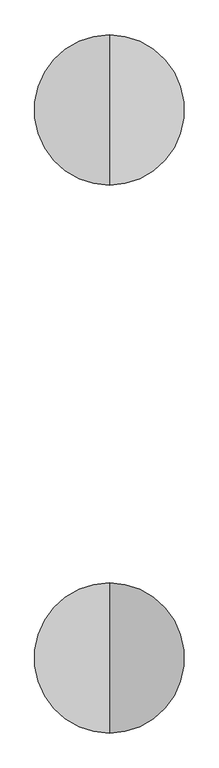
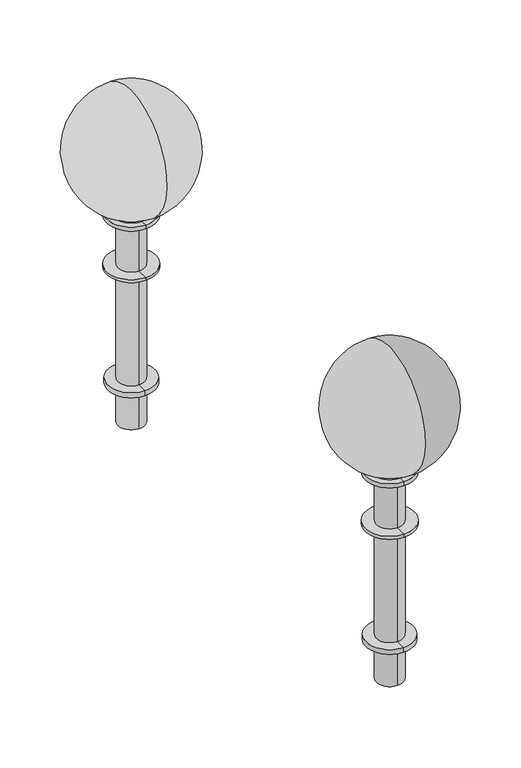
"""IFC4 building model written with IfcOpenShell, lengths in millimetres: column geometry, 招牌柱 : 招牌柱."""

from ifc_helpers import new_model, si_unit, point, frame, origin, place, context, project, spatial, circle_curve, ellipse_curve, trimmed, source, transform, mapped, element, save
from ifc_brep_helpers import plane_surface, cylinder_surface, revolved_surface, advanced_brep


def column_72347231(model_context):
    return source(origin(), model_context, "Body", "AdvancedBrep", [
        advanced_brep(
        [(5029.1580578, 2762.016625, 2700.0), (5029.1580578, 2697.016625, 2700.0), (5029.1580578, 2827.016625, 2700.0), (5029.1580578, 2697.016625, 2900.0), (5029.1580578, 2827.016625, 2900.0), (5029.1580578, 2647.016625, 2900.0), (5029.1580578, 2877.016625, 2900.0), (5029.1580578, 2647.016625, 2925.0), (5029.1580578, 2877.016625, 2925.0), (5029.1580578, 2697.016625, 2925.0), (5029.1580578, 2827.016625, 2925.0), (5029.1580578, 2697.016625, 3475.0), (5029.1580578, 2827.016625, 3475.0), (5029.1580578, 2672.016625, 3475.0), (5029.1580578, 2852.016625, 3475.0), (5029.1580578, 2672.016625, 3495.0), (5029.1580578, 2852.016625, 3495.0), (5029.1580578, 2642.016625, 3495.0), (5029.1580578, 2882.016625, 3495.0), (5029.1580578, 2642.016625, 3510.0), (5029.1580578, 2882.016625, 3510.0), (5029.1580578, 2697.016625, 3510.0), (5029.1580578, 2827.016625, 3510.0), (5029.1580578, 2697.016625, 3760.0), (5029.1580578, 2827.016625, 3760.0), (5029.1580578, 2642.016625, 3760.0), (5029.1580578, 2882.016625, 3760.0), (5029.1580578, 2642.016625, 3780.0), (5029.1580578, 2882.016625, 3780.0), (5029.1580578, 2672.016625, 3780.0), (5029.1580578, 2852.016625, 3780.0), (5029.1580578, 2672.016625, 3800.0), (5029.1580578, 2852.016625, 3800.0), (5029.1580578, 2762.016625, 4400.0)],
        [
            (0, 1),
            (1, 2, circle_curve(frame((5029.1580578, 2762.016625, 2700.0), z_axis=(0.0, 0.0, -1.0), x_axis=(0.0, -1.0, 0.0)), 65.0)),
            (2, 0),
            (2, 1, circle_curve(frame((5029.1580578, 2762.016625, 2700.0), z_axis=(0.0, 0.0, -1.0), x_axis=(0.0, -1.0, 0.0)), 65.0)),
            (1, 3),
            (3, 4, circle_curve(frame((5029.1580578, 2762.016625, 2900.0), z_axis=(0.0, 0.0, -1.0), x_axis=(0.0, -1.0, 0.0)), 65.0)),
            (4, 2),
            (4, 3, circle_curve(frame((5029.1580578, 2762.016625, 2900.0), z_axis=(0.0, 0.0, -1.0), x_axis=(0.0, -1.0, 0.0)), 65.0)),
            (3, 5),
            (5, 6, circle_curve(frame((5029.1580578, 2762.016625, 2900.0), z_axis=(0.0, 0.0, -1.0), x_axis=(0.0, -1.0, 0.0)), 115.0)),
            (6, 4),
            (6, 5, circle_curve(frame((5029.1580578, 2762.016625, 2900.0), z_axis=(0.0, 0.0, -1.0), x_axis=(0.0, -1.0, 0.0)), 115.0)),
            (5, 7),
            (7, 8, circle_curve(frame((5029.1580578, 2762.016625, 2925.0), z_axis=(0.0, 0.0, -1.0), x_axis=(0.0, -1.0, 0.0)), 115.0)),
            (8, 6),
            (8, 7, circle_curve(frame((5029.1580578, 2762.016625, 2925.0), z_axis=(0.0, 0.0, -1.0), x_axis=(0.0, -1.0, 0.0)), 115.0)),
            (7, 9),
            (9, 10, circle_curve(frame((5029.1580578, 2762.016625, 2925.0), z_axis=(0.0, 0.0, -1.0), x_axis=(0.0, -1.0, 0.0)), 65.0)),
            (10, 8),
            (10, 9, circle_curve(frame((5029.1580578, 2762.016625, 2925.0), z_axis=(0.0, 0.0, -1.0), x_axis=(0.0, -1.0, 0.0)), 65.0)),
            (9, 11),
            (11, 12, circle_curve(frame((5029.1580578, 2762.016625, 3475.0), z_axis=(0.0, 0.0, -1.0), x_axis=(0.0, -1.0, 0.0)), 65.0)),
            (12, 10),
            (12, 11, circle_curve(frame((5029.1580578, 2762.016625, 3475.0), z_axis=(0.0, 0.0, -1.0), x_axis=(0.0, -1.0, 0.0)), 65.0)),
            (11, 13),
            (13, 14, circle_curve(frame((5029.1580578, 2762.016625, 3475.0), z_axis=(0.0, 0.0, -1.0), x_axis=(0.0, -1.0, 0.0)), 90.0)),
            (14, 12),
            (14, 13, circle_curve(frame((5029.1580578, 2762.016625, 3475.0), z_axis=(0.0, 0.0, -1.0), x_axis=(0.0, -1.0, 0.0)), 90.0)),
            (13, 15),
            (15, 16, circle_curve(frame((5029.1580578, 2762.016625, 3495.0), z_axis=(0.0, 0.0, -1.0), x_axis=(0.0, -1.0, 0.0)), 90.0)),
            (16, 14),
            (16, 15, circle_curve(frame((5029.1580578, 2762.016625, 3495.0), z_axis=(0.0, 0.0, -1.0), x_axis=(0.0, -1.0, 0.0)), 90.0)),
            (15, 17),
            (17, 18, circle_curve(frame((5029.1580578, 2762.016625, 3495.0), z_axis=(0.0, 0.0, -1.0), x_axis=(0.0, -1.0, 0.0)), 120.0)),
            (18, 16),
            (18, 17, circle_curve(frame((5029.1580578, 2762.016625, 3495.0), z_axis=(0.0, 0.0, -1.0), x_axis=(0.0, -1.0, 0.0)), 120.0)),
            (17, 19),
            (19, 20, circle_curve(frame((5029.1580578, 2762.016625, 3510.0), z_axis=(0.0, 0.0, -1.0), x_axis=(0.0, -1.0, 0.0)), 120.0)),
            (20, 18),
            (20, 19, circle_curve(frame((5029.1580578, 2762.016625, 3510.0), z_axis=(0.0, 0.0, -1.0), x_axis=(0.0, -1.0, 0.0)), 120.0)),
            (19, 21),
            (21, 22, circle_curve(frame((5029.1580578, 2762.016625, 3510.0), z_axis=(0.0, 0.0, -1.0), x_axis=(0.0, -1.0, 0.0)), 65.0)),
            (22, 20),
            (22, 21, circle_curve(frame((5029.1580578, 2762.016625, 3510.0), z_axis=(0.0, 0.0, -1.0), x_axis=(0.0, -1.0, 0.0)), 65.0)),
            (21, 23),
            (23, 24, circle_curve(frame((5029.1580578, 2762.016625, 3760.0), z_axis=(0.0, 0.0, -1.0), x_axis=(0.0, -1.0, 0.0)), 65.0)),
            (24, 22),
            (24, 23, circle_curve(frame((5029.1580578, 2762.016625, 3760.0), z_axis=(0.0, 0.0, -1.0), x_axis=(0.0, -1.0, 0.0)), 65.0)),
            (23, 25),
            (25, 26, circle_curve(frame((5029.1580578, 2762.016625, 3760.0), z_axis=(0.0, 0.0, -1.0), x_axis=(0.0, -1.0, 0.0)), 120.0)),
            (26, 24),
            (26, 25, circle_curve(frame((5029.1580578, 2762.016625, 3760.0), z_axis=(0.0, 0.0, -1.0), x_axis=(0.0, -1.0, 0.0)), 120.0)),
            (25, 27),
            (27, 28, circle_curve(frame((5029.1580578, 2762.016625, 3780.0), z_axis=(0.0, 0.0, -1.0), x_axis=(0.0, -1.0, 0.0)), 120.0)),
            (28, 26),
            (28, 27, circle_curve(frame((5029.1580578, 2762.016625, 3780.0), z_axis=(0.0, 0.0, -1.0), x_axis=(0.0, -1.0, 0.0)), 120.0)),
            (27, 29),
            (29, 30, circle_curve(frame((5029.1580578, 2762.016625, 3780.0), z_axis=(0.0, 0.0, -1.0), x_axis=(0.0, -1.0, 0.0)), 90.0)),
            (30, 28),
            (30, 29, circle_curve(frame((5029.1580578, 2762.016625, 3780.0), z_axis=(0.0, 0.0, -1.0), x_axis=(0.0, -1.0, 0.0)), 90.0)),
            (29, 31),
            (31, 32, circle_curve(frame((5029.1580578, 2762.016625, 3800.0), z_axis=(0.0, 0.0, -1.0), x_axis=(0.0, -1.0, 0.0)), 90.0)),
            (32, 30),
            (32, 31, circle_curve(frame((5029.1580578, 2762.016625, 3800.0), z_axis=(0.0, 0.0, -1.0), x_axis=(0.0, -1.0, 0.0)), 90.0)),
            (31, 33, circle_curve(frame((5029.1580578, 2772.0283605, 4091.7482397), z_axis=(-1.0, 0.0, 0.0), x_axis=(0.0, -1.0, 0.0)), 308.4143035)),
            (33, 32, circle_curve(frame((5029.1580578, 2752.0048895, 4091.7482397), z_axis=(-1.0, 0.0, 0.0), x_axis=(0.0, 1.0, 0.0)), 308.4143035)),
        ],
        [
            plane_surface(frame((5029.1580578, 2762.016625, 2700.0), z_axis=(0.0, 0.0, -1.0), x_axis=(0.0, -1.0, 0.0))),
            cylinder_surface(frame((5029.1580578, 2762.016625, 4700.0), z_axis=(0.0, 0.0, -1.0), x_axis=(0.0, -1.0, 0.0)), 65.0),
            plane_surface(frame((5029.1580578, 2762.016625, 2900.0), z_axis=(0.0, 0.0, -1.0), x_axis=(0.0, -1.0, 0.0))),
            cylinder_surface(frame((5029.1580578, 2762.016625, 4700.0), z_axis=(0.0, 0.0, -1.0), x_axis=(0.0, -1.0, 0.0)), 115.0),
            plane_surface(frame((5029.1580578, 2762.016625, 2925.0), z_axis=(0.0, 0.0, 1.0), x_axis=(0.0, -1.0, 0.0))),
            plane_surface(frame((5029.1580578, 2762.016625, 3475.0), z_axis=(0.0, 0.0, -1.0), x_axis=(0.0, -1.0, 0.0))),
            cylinder_surface(frame((5029.1580578, 2762.016625, 4700.0), z_axis=(0.0, 0.0, -1.0), x_axis=(0.0, -1.0, 0.0)), 90.0),
            plane_surface(frame((5029.1580578, 2762.016625, 3495.0), z_axis=(0.0, 0.0, -1.0), x_axis=(0.0, -1.0, 0.0))),
            cylinder_surface(frame((5029.1580578, 2762.016625, 4700.0), z_axis=(0.0, 0.0, -1.0), x_axis=(0.0, -1.0, 0.0)), 120.0),
            plane_surface(frame((5029.1580578, 2762.016625, 3510.0), z_axis=(0.0, 0.0, 1.0), x_axis=(0.0, -1.0, 0.0))),
            plane_surface(frame((5029.1580578, 2762.016625, 3760.0), z_axis=(0.0, 0.0, -1.0), x_axis=(0.0, -1.0, 0.0))),
            plane_surface(frame((5029.1580578, 2762.016625, 3780.0), z_axis=(0.0, 0.0, 1.0), x_axis=(0.0, -1.0, 0.0))),
            revolved_surface(trimmed(ellipse_curve(frame((5029.1580578, 2772.0283605, 4091.7482397), z_axis=(1.0, 0.0, 0.0), x_axis=(0.0, -1.0, 0.0)), 308.4143035, 308.4143035), [point((5029.1580578, 2762.016625, 4400.0))], [point((5029.1580578, 2672.016625, 3800.0))], True, "CARTESIAN"), (5029.1580578, 2762.016625, 4700.0), (0.0, 0.0, -1.0)),
        ],
        [
            (0, [[1, 2, 3]]),
            (0, [[-3, 4, -1]]),
            (1, [[-2, 5, 6, 7]]),
            (1, [[-4, -7, 8, -5]]),
            (2, [[-6, 9, 10, 11]]),
            (2, [[-8, -11, 12, -9]]),
            (3, [[-10, 13, 14, 15]]),
            (3, [[-12, -15, 16, -13]]),
            (4, [[-14, 17, 18, 19]]),
            (4, [[-16, -19, 20, -17]]),
            (1, [[-18, 21, 22, 23]]),
            (1, [[-20, -23, 24, -21]]),
            (5, [[-22, 25, 26, 27]]),
            (5, [[-24, -27, 28, -25]]),
            (6, [[-26, 29, 30, 31]]),
            (6, [[-28, -31, 32, -29]]),
            (7, [[-30, 33, 34, 35]]),
            (7, [[-32, -35, 36, -33]]),
            (8, [[-34, 37, 38, 39]]),
            (8, [[-36, -39, 40, -37]]),
            (9, [[-38, 41, 42, 43]]),
            (9, [[-40, -43, 44, -41]]),
            (1, [[-42, 45, 46, 47]]),
            (1, [[-44, -47, 48, -45]]),
            (10, [[-46, 49, 50, 51]]),
            (10, [[-48, -51, 52, -49]]),
            (8, [[-50, 53, 54, 55]]),
            (8, [[-52, -55, 56, -53]]),
            (11, [[-54, 57, 58, 59]]),
            (11, [[-56, -59, 60, -57]]),
            (6, [[-58, 61, 62, 63]]),
            (6, [[-60, -63, 64, -61]]),
            (12, [[-62, 65, 66]]),
            (12, [[-64, -66, -65]]),
        ],
    ),
        advanced_brep(
        [(5029.1580578, 521.016625, 2700.0), (5029.1580578, 651.016625, 2700.0), (5029.1580578, 586.016625, 2700.0), (5029.1580578, 521.016625, 2900.0), (5029.1580578, 651.016625, 2900.0), (5029.1580578, 471.016625, 2900.0), (5029.1580578, 701.016625, 2900.0), (5029.1580578, 471.016625, 2925.0), (5029.1580578, 701.016625, 2925.0), (5029.1580578, 521.016625, 2925.0), (5029.1580578, 651.016625, 2925.0), (5029.1580578, 521.016625, 3475.0), (5029.1580578, 651.016625, 3475.0), (5029.1580578, 496.016625, 3475.0), (5029.1580578, 676.016625, 3475.0), (5029.1580578, 496.016625, 3495.0), (5029.1580578, 676.016625, 3495.0), (5029.1580578, 466.016625, 3495.0), (5029.1580578, 706.016625, 3495.0), (5029.1580578, 466.016625, 3510.0), (5029.1580578, 706.016625, 3510.0), (5029.1580578, 521.016625, 3510.0), (5029.1580578, 651.016625, 3510.0), (5029.1580578, 521.016625, 3760.0), (5029.1580578, 651.016625, 3760.0), (5029.1580578, 466.016625, 3760.0), (5029.1580578, 706.016625, 3760.0), (5029.1580578, 466.016625, 3780.0), (5029.1580578, 706.016625, 3780.0), (5029.1580578, 496.016625, 3780.0), (5029.1580578, 676.016625, 3780.0), (5029.1580578, 496.016625, 3800.0), (5029.1580578, 676.016625, 3800.0), (5029.1580578, 586.016625, 4400.0)],
        [
            (0, 1, circle_curve(frame((5029.1580578, 586.016625, 2700.0), z_axis=(0.0, 0.0, -1.0), x_axis=(0.0, 1.0, 0.0)), 65.0)),
            (1, 2),
            (2, 0),
            (1, 0, circle_curve(frame((5029.1580578, 586.016625, 2700.0), z_axis=(0.0, 0.0, -1.0), x_axis=(0.0, 1.0, 0.0)), 65.0)),
            (3, 4, circle_curve(frame((5029.1580578, 586.016625, 2900.0), z_axis=(0.0, 0.0, -1.0), x_axis=(0.0, 1.0, 0.0)), 65.0)),
            (4, 1),
            (0, 3),
            (4, 3, circle_curve(frame((5029.1580578, 586.016625, 2900.0), z_axis=(0.0, 0.0, -1.0), x_axis=(0.0, 1.0, 0.0)), 65.0)),
            (5, 6, circle_curve(frame((5029.1580578, 586.016625, 2900.0), z_axis=(0.0, 0.0, -1.0), x_axis=(0.0, 1.0, 0.0)), 115.0)),
            (6, 4),
            (3, 5),
            (6, 5, circle_curve(frame((5029.1580578, 586.016625, 2900.0), z_axis=(0.0, 0.0, -1.0), x_axis=(0.0, 1.0, 0.0)), 115.0)),
            (7, 8, circle_curve(frame((5029.1580578, 586.016625, 2925.0), z_axis=(0.0, 0.0, -1.0), x_axis=(0.0, 1.0, 0.0)), 115.0)),
            (8, 6),
            (5, 7),
            (8, 7, circle_curve(frame((5029.1580578, 586.016625, 2925.0), z_axis=(0.0, 0.0, -1.0), x_axis=(0.0, 1.0, 0.0)), 115.0)),
            (9, 10, circle_curve(frame((5029.1580578, 586.016625, 2925.0), z_axis=(0.0, 0.0, -1.0), x_axis=(0.0, 1.0, 0.0)), 65.0)),
            (10, 8),
            (7, 9),
            (10, 9, circle_curve(frame((5029.1580578, 586.016625, 2925.0), z_axis=(0.0, 0.0, -1.0), x_axis=(0.0, 1.0, 0.0)), 65.0)),
            (11, 12, circle_curve(frame((5029.1580578, 586.016625, 3475.0), z_axis=(0.0, 0.0, -1.0), x_axis=(0.0, 1.0, 0.0)), 65.0)),
            (12, 10),
            (9, 11),
            (12, 11, circle_curve(frame((5029.1580578, 586.016625, 3475.0), z_axis=(0.0, 0.0, -1.0), x_axis=(0.0, 1.0, 0.0)), 65.0)),
            (13, 14, circle_curve(frame((5029.1580578, 586.016625, 3475.0), z_axis=(0.0, 0.0, -1.0), x_axis=(0.0, 1.0, 0.0)), 90.0)),
            (14, 12),
            (11, 13),
            (14, 13, circle_curve(frame((5029.1580578, 586.016625, 3475.0), z_axis=(0.0, 0.0, -1.0), x_axis=(0.0, 1.0, 0.0)), 90.0)),
            (15, 16, circle_curve(frame((5029.1580578, 586.016625, 3495.0), z_axis=(0.0, 0.0, -1.0), x_axis=(0.0, 1.0, 0.0)), 90.0)),
            (16, 14),
            (13, 15),
            (16, 15, circle_curve(frame((5029.1580578, 586.016625, 3495.0), z_axis=(0.0, 0.0, -1.0), x_axis=(0.0, 1.0, 0.0)), 90.0)),
            (17, 18, circle_curve(frame((5029.1580578, 586.016625, 3495.0), z_axis=(0.0, 0.0, -1.0), x_axis=(0.0, 1.0, 0.0)), 120.0)),
            (18, 16),
            (15, 17),
            (18, 17, circle_curve(frame((5029.1580578, 586.016625, 3495.0), z_axis=(0.0, 0.0, -1.0), x_axis=(0.0, 1.0, 0.0)), 120.0)),
            (19, 20, circle_curve(frame((5029.1580578, 586.016625, 3510.0), z_axis=(0.0, 0.0, -1.0), x_axis=(0.0, 1.0, 0.0)), 120.0)),
            (20, 18),
            (17, 19),
            (20, 19, circle_curve(frame((5029.1580578, 586.016625, 3510.0), z_axis=(0.0, 0.0, -1.0), x_axis=(0.0, 1.0, 0.0)), 120.0)),
            (21, 22, circle_curve(frame((5029.1580578, 586.016625, 3510.0), z_axis=(0.0, 0.0, -1.0), x_axis=(0.0, 1.0, 0.0)), 65.0)),
            (22, 20),
            (19, 21),
            (22, 21, circle_curve(frame((5029.1580578, 586.016625, 3510.0), z_axis=(0.0, 0.0, -1.0), x_axis=(0.0, 1.0, 0.0)), 65.0)),
            (23, 24, circle_curve(frame((5029.1580578, 586.016625, 3760.0), z_axis=(0.0, 0.0, -1.0), x_axis=(0.0, 1.0, 0.0)), 65.0)),
            (24, 22),
            (21, 23),
            (24, 23, circle_curve(frame((5029.1580578, 586.016625, 3760.0), z_axis=(0.0, 0.0, -1.0), x_axis=(0.0, 1.0, 0.0)), 65.0)),
            (25, 26, circle_curve(frame((5029.1580578, 586.016625, 3760.0), z_axis=(0.0, 0.0, -1.0), x_axis=(0.0, 1.0, 0.0)), 120.0)),
            (26, 24),
            (23, 25),
            (26, 25, circle_curve(frame((5029.1580578, 586.016625, 3760.0), z_axis=(0.0, 0.0, -1.0), x_axis=(0.0, 1.0, 0.0)), 120.0)),
            (27, 28, circle_curve(frame((5029.1580578, 586.016625, 3780.0), z_axis=(0.0, 0.0, -1.0), x_axis=(0.0, 1.0, 0.0)), 120.0)),
            (28, 26),
            (25, 27),
            (28, 27, circle_curve(frame((5029.1580578, 586.016625, 3780.0), z_axis=(0.0, 0.0, -1.0), x_axis=(0.0, 1.0, 0.0)), 120.0)),
            (29, 30, circle_curve(frame((5029.1580578, 586.016625, 3780.0), z_axis=(0.0, 0.0, -1.0), x_axis=(0.0, 1.0, 0.0)), 90.0)),
            (30, 28),
            (27, 29),
            (30, 29, circle_curve(frame((5029.1580578, 586.016625, 3780.0), z_axis=(0.0, 0.0, -1.0), x_axis=(0.0, 1.0, 0.0)), 90.0)),
            (31, 32, circle_curve(frame((5029.1580578, 586.016625, 3800.0), z_axis=(0.0, 0.0, -1.0), x_axis=(0.0, 1.0, 0.0)), 90.0)),
            (32, 30),
            (29, 31),
            (32, 31, circle_curve(frame((5029.1580578, 586.016625, 3800.0), z_axis=(0.0, 0.0, -1.0), x_axis=(0.0, 1.0, 0.0)), 90.0)),
            (33, 32, circle_curve(frame((5029.1580578, 576.0048895, 4091.7482397), z_axis=(-1.0, 0.0, 0.0), x_axis=(0.0, 1.0, 0.0)), 308.4143035)),
            (31, 33, circle_curve(frame((5029.1580578, 596.0283605, 4091.7482397), z_axis=(-1.0, 0.0, 0.0), x_axis=(0.0, -1.0, 0.0)), 308.4143035)),
        ],
        [
            plane_surface(frame((5029.1580578, 586.016625, 2700.0), z_axis=(0.0, 0.0, -1.0), x_axis=(0.0, 1.0, 0.0))),
            cylinder_surface(frame((5029.1580578, 586.016625, 4700.0), z_axis=(0.0, 0.0, 1.0), x_axis=(0.0, 1.0, 0.0)), 65.0),
            plane_surface(frame((5029.1580578, 586.016625, 2900.0), z_axis=(0.0, 0.0, -1.0), x_axis=(0.0, 1.0, 0.0))),
            cylinder_surface(frame((5029.1580578, 586.016625, 4700.0), z_axis=(0.0, 0.0, 1.0), x_axis=(0.0, 1.0, 0.0)), 115.0),
            plane_surface(frame((5029.1580578, 586.016625, 2925.0), z_axis=(0.0, 0.0, 1.0), x_axis=(0.0, 1.0, 0.0))),
            plane_surface(frame((5029.1580578, 586.016625, 3475.0), z_axis=(0.0, 0.0, -1.0), x_axis=(0.0, 1.0, 0.0))),
            cylinder_surface(frame((5029.1580578, 586.016625, 4700.0), z_axis=(0.0, 0.0, 1.0), x_axis=(0.0, 1.0, 0.0)), 90.0),
            plane_surface(frame((5029.1580578, 586.016625, 3495.0), z_axis=(0.0, 0.0, -1.0), x_axis=(0.0, 1.0, 0.0))),
            cylinder_surface(frame((5029.1580578, 586.016625, 4700.0), z_axis=(0.0, 0.0, 1.0), x_axis=(0.0, 1.0, 0.0)), 120.0),
            plane_surface(frame((5029.1580578, 586.016625, 3510.0), z_axis=(0.0, 0.0, 1.0), x_axis=(0.0, 1.0, 0.0))),
            plane_surface(frame((5029.1580578, 586.016625, 3760.0), z_axis=(0.0, 0.0, -1.0), x_axis=(0.0, 1.0, 0.0))),
            plane_surface(frame((5029.1580578, 586.016625, 3780.0), z_axis=(0.0, 0.0, 1.0), x_axis=(0.0, 1.0, 0.0))),
            revolved_surface(trimmed(ellipse_curve(frame((5029.1580578, 576.0048895, 4091.7482397), z_axis=(1.0, 0.0, 0.0), x_axis=(0.0, 1.0, 0.0)), 308.4143035, 308.4143035), [point((5029.1580578, 676.016625, 3800.0))], [point((5029.1580578, 586.016625, 4400.0))], True, "CARTESIAN"), (5029.1580578, 586.016625, 4700.0), (0.0, 0.0, 1.0)),
        ],
        [
            (0, [[1, 2, 3]]),
            (0, [[4, -3, -2]]),
            (1, [[5, 6, -1, 7]]),
            (1, [[8, -7, -4, -6]]),
            (2, [[9, 10, -5, 11]]),
            (2, [[12, -11, -8, -10]]),
            (3, [[13, 14, -9, 15]]),
            (3, [[16, -15, -12, -14]]),
            (4, [[17, 18, -13, 19]]),
            (4, [[20, -19, -16, -18]]),
            (1, [[21, 22, -17, 23]]),
            (1, [[24, -23, -20, -22]]),
            (5, [[25, 26, -21, 27]]),
            (5, [[28, -27, -24, -26]]),
            (6, [[29, 30, -25, 31]]),
            (6, [[32, -31, -28, -30]]),
            (7, [[33, 34, -29, 35]]),
            (7, [[36, -35, -32, -34]]),
            (8, [[37, 38, -33, 39]]),
            (8, [[40, -39, -36, -38]]),
            (9, [[41, 42, -37, 43]]),
            (9, [[44, -43, -40, -42]]),
            (1, [[45, 46, -41, 47]]),
            (1, [[48, -47, -44, -46]]),
            (10, [[49, 50, -45, 51]]),
            (10, [[52, -51, -48, -50]]),
            (8, [[53, 54, -49, 55]]),
            (8, [[56, -55, -52, -54]]),
            (11, [[57, 58, -53, 59]]),
            (11, [[60, -59, -56, -58]]),
            (6, [[61, 62, -57, 63]]),
            (6, [[64, -63, -60, -62]]),
            (12, [[65, -61, 66]]),
            (12, [[-66, -64, -65]]),
        ],
    ),
    ])


if __name__ == "__main__":
    model = new_model("IFC4")
    model_context = context("Model", 3, world=origin())
    ifc_project = project(units=[si_unit("LENGTHUNIT", "METRE", prefix="MILLI")], contexts=[model_context])
    site = spatial("IfcSite", under=ifc_project)
    building = spatial("IfcBuilding", under=site)
    placement = place(None, origin())
    column_shape = column_72347231(model_context)
    element("IfcColumn", 1, ObjectType="招牌柱 : 招牌柱", at=placement, inside=building, context=model_context, shape_type="MappedRepresentation", body=[
        mapped(column_shape, transform((0.0, 0.0, 0.0), x_axis=(1.0, 0.0, 0.0), y_axis=(0.0, 1.0, 0.0), z_axis=(0.0, 0.0, 1.0))),
    ])
    save(model, "model.ifc")
